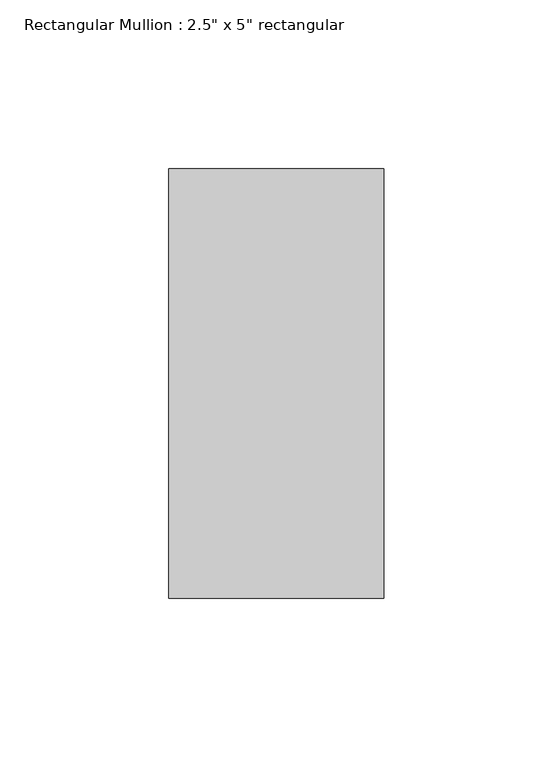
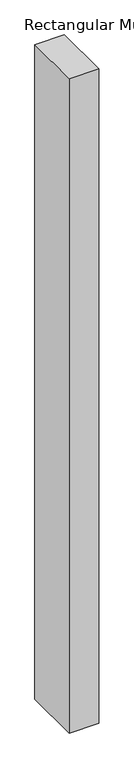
"""IFC4 building model written with IfcOpenShell, lengths in millimetres: member geometry."""

import ifcopenshell
import ifcopenshell.guid

model = None  # the IFC model being written
_history = None  # IfcOwnerHistory: only IFC2X3 demands one
_inside = {}  # id of a spatial element -> (the spatial element, [elements in it])
_under = {}  # id of a project, library or spatial element -> (it, [spatial elements below it])
_declared = {}  # id of a project -> (the project, [libraries it declares])
_typed = {}  # id of a type object -> (the type object, [elements of that type])
_made_of = {}  # id of a material, layer set ... -> (it, [elements and type objects made of it])


def new_model(schema):
    """Start an empty IFC model of exactly this schema.

    Asked for "IFC4X3", IfcOpenShell would pick the latest addendum, in which some entities
    have other attributes; the version numbers below select the first issue.
    IFC2X3 requires an IfcOwnerHistory on every rooted entity: one is made here for all.
    """
    global model, _history
    if schema == "IFC4X3":
        model = ifcopenshell.file(schema_version=(4, 3, 0, 0))
    else:
        model = ifcopenshell.file(schema=schema)
    _inside.clear()
    _under.clear()
    _declared.clear()
    _typed.clear()
    _made_of.clear()
    _history = None
    if model.schema == "IFC2X3":
        org = make("IfcOrganization", Name="unknown")
        user = make(
            "IfcPersonAndOrganization",
            ThePerson=make("IfcPerson", FamilyName="unknown"),
            TheOrganization=org,
        )
        app = make(
            "IfcApplication",
            ApplicationDeveloper=org,
            Version="unknown",
            ApplicationFullName="unknown",
            ApplicationIdentifier="unknown",
        )
        _history = make(
            "IfcOwnerHistory",
            OwningUser=user,
            OwningApplication=app,
            ChangeAction="ADDED",
            CreationDate=0,
        )
    return model


def make(cls, **values):
    """One entity of the class cls with the attributes given. An attribute that is None is left unset."""
    return model.create_entity(
        cls, **{name: value for name, value in values.items() if value is not None}
    )


def rooted(cls, **values):
    """An entity with a GlobalId (a new one), such as an element, a storey or a relation."""
    return make(cls, GlobalId=ifcopenshell.guid.new(), OwnerHistory=_history, **values)


def si_unit(unit_type, name, prefix=None):
    """IfcSIUnit, for example si_unit("LENGTHUNIT", "METRE", prefix="MILLI")."""
    return make("IfcSIUnit", UnitType=unit_type, Prefix=prefix, Name=name)


def assignment(units):
    """IfcUnitAssignment: the units of a project."""
    return None if units is None else make("IfcUnitAssignment", Units=units)


def point(xyz):
    """IfcCartesianPoint."""
    return None if xyz is None else make("IfcCartesianPoint", Coordinates=xyz)


def direction(xyz):
    """IfcDirection."""
    return None if xyz is None else make("IfcDirection", DirectionRatios=xyz)


def frame(location, z_axis=None, x_axis=None):
    """IfcAxis2Placement3D, a coordinate frame: its origin and axes. An axis left out is left unset."""
    return make(
        "IfcAxis2Placement3D",
        Location=point(location),
        Axis=direction(z_axis),
        RefDirection=direction(x_axis),
    )


def origin():
    """The frame at (0, 0, 0) with its axes left unset."""
    return frame((0.0, 0.0, 0.0))


def place(relative_to, where):
    """IfcLocalPlacement: puts the frame where relative to a parent placement (None: the world)."""
    return make(
        "IfcLocalPlacement", PlacementRelTo=relative_to, RelativePlacement=where
    )


def context(
    kind, dimensions, precision=None, world=None, true_north=None, identifier=None
):
    """IfcGeometricRepresentationContext, for example the 3D "Model" context."""
    return make(
        "IfcGeometricRepresentationContext",
        ContextIdentifier=identifier,
        ContextType=kind,
        CoordinateSpaceDimension=dimensions,
        Precision=precision,
        WorldCoordinateSystem=world,
        TrueNorth=true_north,
    )


def project(units=None, contexts=None):
    """IfcProject with its units and contexts."""
    return rooted(
        "IfcProject",
        Name="project",
        RepresentationContexts=contexts,
        UnitsInContext=assignment(units),
    )


def spatial(cls, under=None, at=None, **own):
    """A site, building, storey or space (cls), placed at a placement, below another one or the project."""
    s = rooted(cls, ObjectPlacement=at, **own)
    if under is not None:
        _under.setdefault(under.id(), (under, []))[1].append(s)
    return s


def polyline(points):
    """IfcPolyline through the points."""
    return make("IfcPolyline", Points=[point(p) for p in points])


def outline(outer, holes=None, kind="AREA"):
    """IfcArbitraryClosedProfileDef: a profile drawn as a closed curve; with holes, ...WithVoids."""
    if holes is None:
        return make("IfcArbitraryClosedProfileDef", ProfileType=kind, OuterCurve=outer)
    return make(
        "IfcArbitraryProfileDefWithVoids",
        ProfileType=kind,
        OuterCurve=outer,
        InnerCurves=holes,
    )


def extrude(swept, where, along, depth):
    """IfcExtrudedAreaSolid: the profile swept, set in the frame where, extruded along a direction by depth."""
    return make(
        "IfcExtrudedAreaSolid",
        SweptArea=swept,
        Position=where,
        ExtrudedDirection=direction(along),
        Depth=depth,
    )


def shape(context_of_items, identifier, shape_type, items):
    """IfcShapeRepresentation: the items that make up one representation, for example the "Body"."""
    return make(
        "IfcShapeRepresentation",
        ContextOfItems=context_of_items,
        RepresentationIdentifier=identifier,
        RepresentationType=shape_type,
        Items=items,
    )


def source(mapping_origin, context_of_items, identifier, shape_type, items):
    """IfcRepresentationMap: a shape defined once, which mapped items show again and again."""
    return make(
        "IfcRepresentationMap",
        MappingOrigin=mapping_origin,
        MappedRepresentation=shape(context_of_items, identifier, shape_type, items),
    )


def transform(
    local_origin,
    x_axis=None,
    y_axis=None,
    z_axis=None,
    scale=None,
    scale2=None,
    scale3=None,
    uniform=True,
):
    """IfcCartesianTransformationOperator3D, or its non-uniform kind. x_axis, y_axis, z_axis: its Axis1, 2, 3."""
    if uniform:
        return make(
            "IfcCartesianTransformationOperator3D",
            Axis1=direction(x_axis),
            Axis2=direction(y_axis),
            LocalOrigin=point(local_origin),
            Scale=scale,
            Axis3=direction(z_axis),
        )
    return make(
        "IfcCartesianTransformationOperator3DnonUniform",
        Axis1=direction(x_axis),
        Axis2=direction(y_axis),
        LocalOrigin=point(local_origin),
        Scale=scale,
        Axis3=direction(z_axis),
        Scale2=scale2,
        Scale3=scale3,
    )


def mapped(mapping_source, mapping_target):
    """IfcMappedItem: shows the shape of a source again, moved by a transform."""
    return make(
        "IfcMappedItem", MappingSource=mapping_source, MappingTarget=mapping_target
    )


def made_of(thing, what):
    """Note that an element or type object is made of a material, layer set ...; save() writes the relation."""
    if what is not None:
        _made_of.setdefault(what.id(), (what, []))[1].append(thing)
    return thing


def element(
    cls,
    number,
    at=None,
    inside=None,
    cuts=None,
    type_object=None,
    material=None,
    context=None,
    identifier="Body",
    shape_type=None,
    held_by="IfcProductDefinitionShape",
    body=None,
    shapes=None,
    **own,
):
    """One element of the class cls, such as IfcWall. Its Tag is "e" and its number.

    at: its placement. inside: the storey or other place that contains it. cuts: it is an
    opening in that element (IfcRelVoidsElement). A single representation is given by context,
    identifier, shape_type and body (its items); several are given by shapes. held_by: the class
    of the entity that holds the representations. save() writes the other relations.
    """
    e = rooted(cls, Tag="e%d" % number, ObjectPlacement=at, **own)
    if body is not None:
        shapes = [shape(context, identifier, shape_type, body)]
    if shapes is not None:
        e.Representation = make(held_by, Representations=shapes)
    if inside is not None:
        _inside.setdefault(inside.id(), (inside, []))[1].append(e)
    if cuts is not None:
        rooted(
            "IfcRelVoidsElement", RelatingBuildingElement=cuts, RelatedOpeningElement=e
        )
    if type_object is not None:
        _typed.setdefault(type_object.id(), (type_object, []))[1].append(e)
    return made_of(e, material)


def aggregate(whole, parts):
    """IfcRelAggregates: a whole, such as a stair, and the parts it consists of."""
    return rooted("IfcRelAggregates", RelatingObject=whole, RelatedObjects=parts)


def save(model, path):
    """Write the relations noted so far, then the file.

    IfcRelAggregates (storeys below a building ...), IfcRelContainedInSpatialStructure (elements
    in a storey), IfcRelDefinesByType, IfcRelAssociatesMaterial and IfcRelDeclares: one each for
    every whole, place, type object, material and project.
    """
    for whole, parts in _under.values():
        aggregate(whole, parts)
    for where, things in _inside.values():
        rooted(
            "IfcRelContainedInSpatialStructure",
            RelatedElements=things,
            RelatingStructure=where,
        )
    for kind, things in _typed.values():
        rooted("IfcRelDefinesByType", RelatedObjects=things, RelatingType=kind)
    for what, things in _made_of.values():
        rooted("IfcRelAssociatesMaterial", RelatedObjects=things, RelatingMaterial=what)
    for by, libraries in _declared.values():
        rooted("IfcRelDeclares", RelatingContext=by, RelatedDefinitions=libraries)
    model.write(path)


def member_f5e9092a(model_context):
    return source(origin(), model_context, "Body", "SweptSolid", [
        extrude(outline(polyline([(31.75, 63.5), (31.75, -63.5), (-31.75, -63.5), (-31.75, 63.5), (31.75, 63.5)])), frame((0.0, 0.0, -1485.9), z_axis=(0.0, 0.0, 1.0), x_axis=(1.0, 0.0, 0.0)), (0.0, 0.0, 1.0), 1485.9),
    ])


if __name__ == "__main__":
    model = new_model("IFC4")
    model_context = context("Model", 3, world=origin())
    ifc_project = project(units=[si_unit("LENGTHUNIT", "METRE", prefix="MILLI")], contexts=[model_context])
    site = spatial("IfcSite", under=ifc_project)
    building = spatial("IfcBuilding", under=site)
    placement = place(None, origin())
    member_shape = member_f5e9092a(model_context)
    element("IfcMember", 1, ObjectType="Rectangular Mullion : 2.5\" x 5\" rectangular", at=placement, inside=building, context=model_context, shape_type="MappedRepresentation", body=[
        mapped(member_shape, transform((0.0, 0.0, 0.0), x_axis=(1.0, 0.0, 0.0), y_axis=(0.0, 1.0, 0.0), z_axis=(0.0, 0.0, 1.0))),
    ])
    save(model, "model.ifc")
